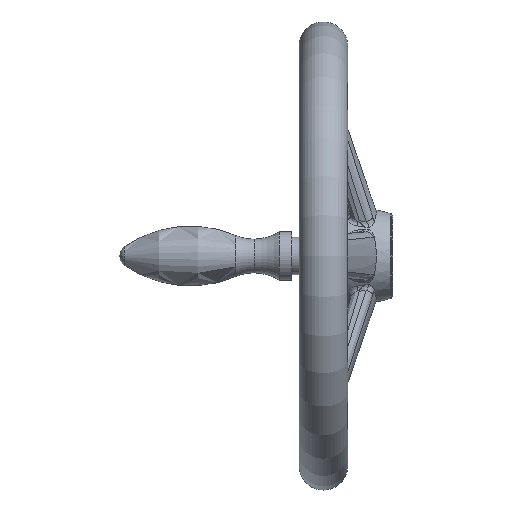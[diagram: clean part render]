
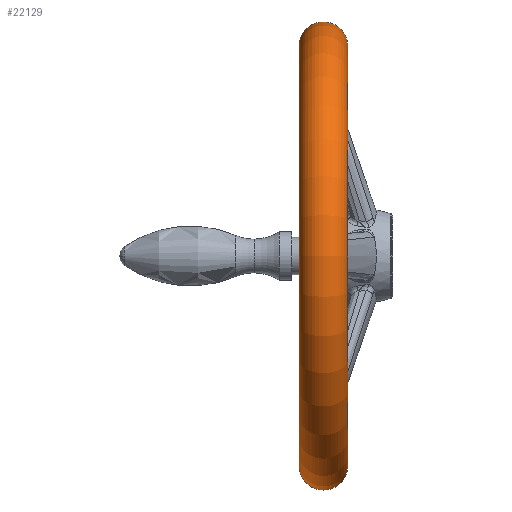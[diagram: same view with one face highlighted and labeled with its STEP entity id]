
A CAD part, left-side view. The second image highlights one B-rep face of the part: STEP entity #22129.
In plain terms, the highlighted toroidal (fillet/blend) face has major radius 111.958 mm and minor radius 13.042 mm.
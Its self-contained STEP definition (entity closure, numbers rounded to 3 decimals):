
#21110 = EDGE_CURVE ( 'NONE', #34850, #34299, #23000, .T. ) ;
#21125 = EDGE_CURVE ( 'NONE', #34825, #34466, #22998, .T. ) ;
#22107 = ORIENTED_EDGE ( 'NONE', *, *, #34169, .T. ) ;
#22129 = ADVANCED_FACE ( 'NONE', ( #23358 ), #23368, .T. ) ;
#22138 = ORIENTED_EDGE ( 'NONE', *, *, #34314, .F. ) ;
#22139 = EDGE_LOOP ( 'NONE', ( #22655, #22107, #22661, #22138 ) ) ;
#22655 = ORIENTED_EDGE ( 'NONE', *, *, #21125, .F. ) ;
#22661 = ORIENTED_EDGE ( 'NONE', *, *, #21110, .T. ) ;
#22991 = AXIS2_PLACEMENT_3D ( 'NONE', #23024, #23023, #23022 ) ;
#22998 = CIRCLE ( 'NONE', #23026, 13.042 ) ;
#23000 = CIRCLE ( 'NONE', #22991, 13.042 ) ;
#23018 = DIRECTION ( 'NONE',  ( 0., 0., -1. ) ) ;
#23019 = DIRECTION ( 'NONE',  ( 1., 0., 0. ) ) ;
#23021 = CARTESIAN_POINT ( 'NONE',  ( 0., 37., 111.958 ) ) ;
#23022 = DIRECTION ( 'NONE',  ( 0., 0., 1. ) ) ;
#23023 = DIRECTION ( 'NONE',  ( -1., 0., 0. ) ) ;
#23024 = CARTESIAN_POINT ( 'NONE',  ( 0., 37., -111.958 ) ) ;
#23026 = AXIS2_PLACEMENT_3D ( 'NONE', #23021, #23019, #23018 ) ;
#23358 = FACE_OUTER_BOUND ( 'NONE', #22139, .T. ) ;
#23363 = DIRECTION ( 'NONE',  ( 0., 0., -1. ) ) ;
#23368 = TOROIDAL_SURFACE ( 'NONE', #23420, 111.958, 13.042 ) ;
#23415 = DIRECTION ( 'NONE',  ( 0., -1., 0. ) ) ;
#23416 = CARTESIAN_POINT ( 'NONE',  ( 0., 37., 0. ) ) ;
#23420 = AXIS2_PLACEMENT_3D ( 'NONE', #23416, #23415, #23363 ) ;
#28321 = DIRECTION ( 'NONE',  ( 0., 0., -1. ) ) ;
#28322 = DIRECTION ( 'NONE',  ( 0., -1., 0. ) ) ;
#28323 = CARTESIAN_POINT ( 'NONE',  ( 0., 50., 0. ) ) ;
#28325 = AXIS2_PLACEMENT_3D ( 'NONE', #28323, #28322, #28321 ) ;
#28327 = CARTESIAN_POINT ( 'NONE',  ( 0., 24., -113. ) ) ;
#28352 = CIRCLE ( 'NONE', #28325, 113. ) ;
#28393 = CIRCLE ( 'NONE', #28412, 113. ) ;
#28409 = DIRECTION ( 'NONE',  ( 0., 0., -1. ) ) ;
#28410 = DIRECTION ( 'NONE',  ( 0., -1., 0. ) ) ;
#28411 = CARTESIAN_POINT ( 'NONE',  ( 0., 24., 0. ) ) ;
#28412 = AXIS2_PLACEMENT_3D ( 'NONE', #28411, #28410, #28409 ) ;
#28531 = CARTESIAN_POINT ( 'NONE',  ( 0., 24., 113. ) ) ;
#28834 = CARTESIAN_POINT ( 'NONE',  ( 0., 50., 113. ) ) ;
#28908 = CARTESIAN_POINT ( 'NONE',  ( 0., 50., -113. ) ) ;
#34169 = EDGE_CURVE ( 'NONE', #34825, #34850, #28352, .T. ) ;
#34299 = VERTEX_POINT ( 'NONE', #28327 ) ;
#34314 = EDGE_CURVE ( 'NONE', #34466, #34299, #28393, .T. ) ;
#34466 = VERTEX_POINT ( 'NONE', #28531 ) ;
#34825 = VERTEX_POINT ( 'NONE', #28834 ) ;
#34850 = VERTEX_POINT ( 'NONE', #28908 ) ;
